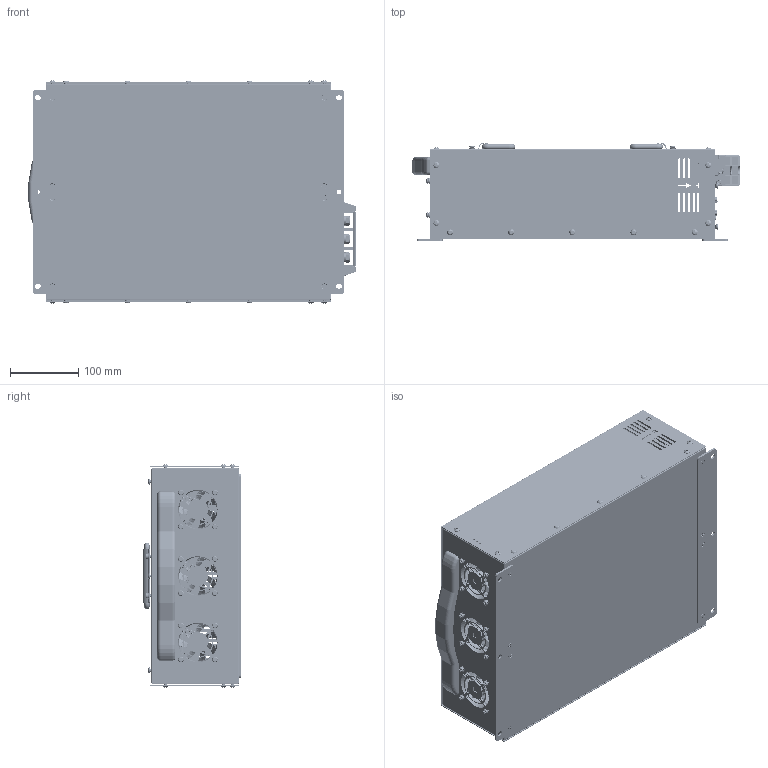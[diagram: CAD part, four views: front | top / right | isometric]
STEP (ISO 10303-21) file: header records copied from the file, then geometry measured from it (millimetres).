
FILE_DESCRIPTION(/* description */ (''),/* implementation_level */ '2;1');
FILE_NAME(/* name */ 'VX4COM_M8_OLED_2026.06.23.STP',/* time_stamp */ '2026-06-23T14:36:27+09:00',/* author */ ('Administrator'),/* organization */ (''),/* preprocessor_version */ 'ST-DEVELOPER v20.1',/* originating_system */ 'Autodesk Inventor 2026',/* authorisation */ '');
FILE_SCHEMA (('AUTOMOTIVE_DESIGN { 1 0 10303 214 3 1 1 }'));
Products named in the file (1): VX4COM ASS'Y_2026.04.21_단순화_1
Bounding box: 480.37 x 144.9 x 327.84 mm (x, y, z)
Volume: 1010469.2 mm3; surface area: 1240436.3 mm2
Topology: 18 solids, 18 shells, 8236 faces, 21684 edges, 14106 vertices
Faces by surface type: plane 4577, cylinder 1975, bspline 1269, torus 305, cone 57, sphere 53
Full cylindrical faces by diameter (mm): 0.013 x9, 0.6 x3, 0.609 x1, 0.61 x27, 0.635 x9, 0.7 x18, 0.75 x18, 0.85 x3, 0.9 x24, 1 x5, 1.397 x9, 1.5 x4, 2.1 x4, 2.286 x9, 2.5 x4, 2.8 x8, 2.957 x4, 3 x12, 3.048 x4, 3.4 x1, 3.6 x2, 3.783 x2, 3.8 x28, 3.9 x2, 4 x107, 4.3 x12, 4.5 x40, 5 x19, 5.3 x16, 5.4 x2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
Entity records: 297762 total; most frequent: CARTESIAN_POINT 89904, ORIENTED_EDGE 43306, DIRECTION 38000, EDGE_CURVE 21653, VERTEX_POINT 14106, LINE 13052, VECTOR 13052, AXIS2_PLACEMENT_3D 12474
